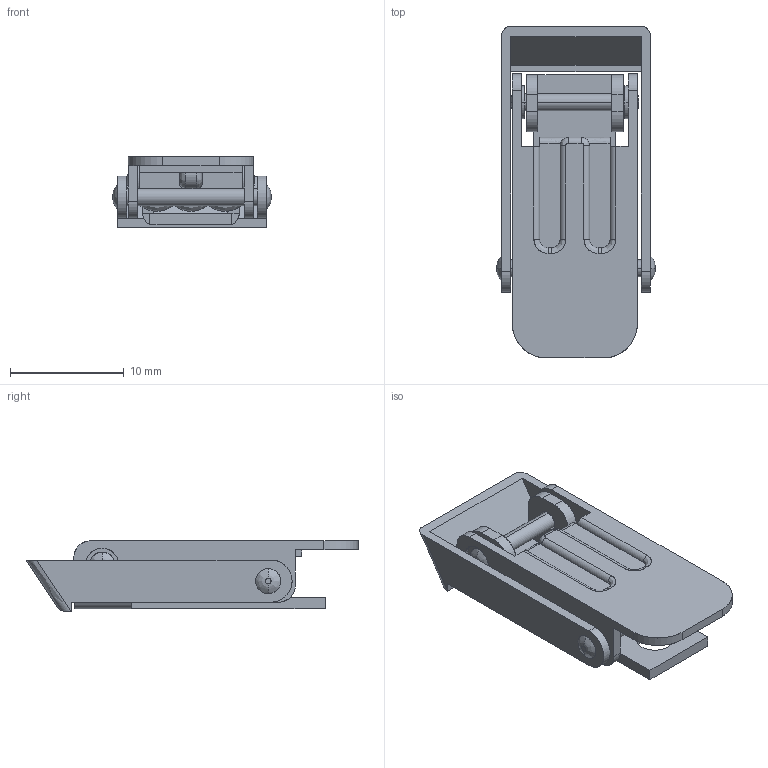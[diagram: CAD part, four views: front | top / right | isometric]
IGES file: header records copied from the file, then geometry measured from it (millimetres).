
Start section: SolidWorks IGES FILE using analytic representation for surfaces
Global section: file name: C:\Documents and Settings\lecoutey\Bureau\GP 69\GP 69.IGS; native system: SolidWorks 2004 by SolidWorks Corporation; preprocessor: Version 5.3; author: lecoutey; date: 050329.145822; units: millimetre
Bounding box: 13.9 x 29.2 x 6.2 mm (x, y, z)
Surface area: 2352.9 mm2 (no closed solid volume)
Topology: 0 solids, 0 shells, 192 faces, 2411 edges, 2411 vertices
Faces by surface type: bspline 111, revolution 81
